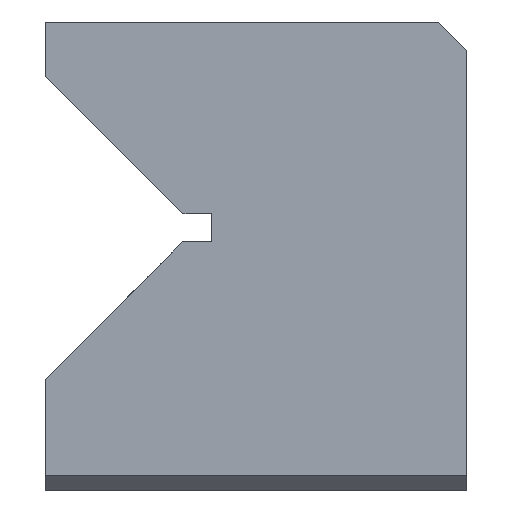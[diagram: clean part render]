
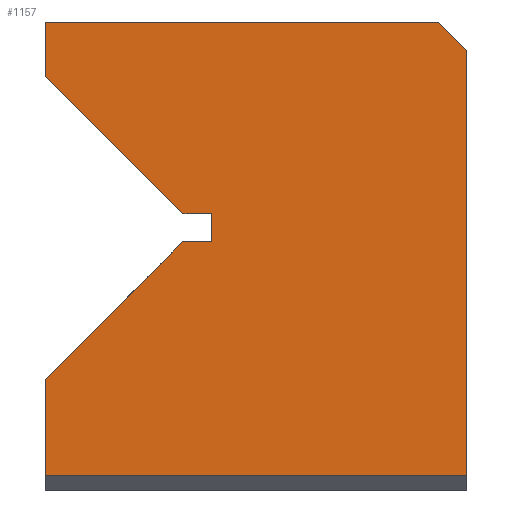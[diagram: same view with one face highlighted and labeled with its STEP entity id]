
A CAD part, left-side view. The second image highlights one B-rep face of the part: STEP entity #1157.
In plain terms, the highlighted planar face has unit normal (-1, 0, 0).
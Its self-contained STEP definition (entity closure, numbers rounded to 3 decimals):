
#186=DIRECTION('',(0.,1.,0.));
#187=VECTOR('',#186,45.);
#188=CARTESIAN_POINT('',(-80.,-22.5,-23.5));
#189=LINE('',#188,#187);
#190=DIRECTION('',(0.,0.,1.));
#191=VECTOR('',#190,10.3);
#192=CARTESIAN_POINT('',(-80.,22.5,-23.5));
#193=LINE('',#192,#191);
#194=DIRECTION('',(0.,-0.707,0.707));
#195=VECTOR('',#194,20.789);
#196=CARTESIAN_POINT('',(-80.,22.5,-13.2));
#197=LINE('',#196,#195);
#198=DIRECTION('',(0.,-1.,0.));
#199=VECTOR('',#198,3.);
#200=CARTESIAN_POINT('',(-80.,7.8,1.5));
#201=LINE('',#200,#199);
#202=DIRECTION('',(0.,0.,1.));
#203=VECTOR('',#202,3.);
#204=CARTESIAN_POINT('',(-80.,4.8,1.5));
#205=LINE('',#204,#203);
#206=DIRECTION('',(0.,1.,0.));
#207=VECTOR('',#206,3.);
#208=CARTESIAN_POINT('',(-80.,4.8,4.5));
#209=LINE('',#208,#207);
#210=DIRECTION('',(0.,0.707,0.707));
#211=VECTOR('',#210,20.789);
#212=CARTESIAN_POINT('',(-80.,7.8,4.5));
#213=LINE('',#212,#211);
#214=DIRECTION('',(0.,0.,1.));
#215=VECTOR('',#214,5.8);
#216=CARTESIAN_POINT('',(-80.,22.5,19.2));
#217=LINE('',#216,#215);
#218=DIRECTION('',(0.,0.707,0.707));
#219=VECTOR('',#218,4.243);
#220=CARTESIAN_POINT('',(-80.,-22.5,22.));
#221=LINE('',#220,#219);
#482=DIRECTION('',(0.,0.,1.));
#483=VECTOR('',#482,45.5);
#484=CARTESIAN_POINT('',(-80.,-22.5,-23.5));
#485=LINE('',#484,#483);
#604=DIRECTION('',(0.,-1.,0.));
#605=VECTOR('',#604,42.);
#606=CARTESIAN_POINT('',(-80.,22.5,25.));
#607=LINE('',#606,#605);
#699=CARTESIAN_POINT('',(-80.,22.5,25.));
#700=VERTEX_POINT('',#699);
#703=CARTESIAN_POINT('',(-80.,22.5,-13.2));
#704=VERTEX_POINT('',#703);
#707=CARTESIAN_POINT('',(-80.,22.5,19.2));
#708=VERTEX_POINT('',#707);
#733=CARTESIAN_POINT('',(-80.,7.8,1.5));
#734=VERTEX_POINT('',#733);
#735=CARTESIAN_POINT('',(-80.,7.8,4.5));
#736=VERTEX_POINT('',#735);
#741=CARTESIAN_POINT('',(-80.,4.8,1.5));
#742=VERTEX_POINT('',#741);
#743=CARTESIAN_POINT('',(-80.,4.8,4.5));
#744=VERTEX_POINT('',#743);
#833=CARTESIAN_POINT('',(-80.,-22.5,22.));
#834=VERTEX_POINT('',#833);
#835=CARTESIAN_POINT('',(-80.,-19.5,25.));
#836=VERTEX_POINT('',#835);
#846=CARTESIAN_POINT('',(-80.,22.5,-23.5));
#848=VERTEX_POINT('',#846);
#849=CARTESIAN_POINT('',(-80.,-22.5,-23.5));
#850=VERTEX_POINT('',#849);
#1133=CARTESIAN_POINT('',(-80.,22.5,-25.));
#1134=DIRECTION('',(-1.,0.,0.));
#1135=DIRECTION('',(0.,-1.,0.));
#1136=AXIS2_PLACEMENT_3D('',#1133,#1134,#1135);
#1137=PLANE('',#1136);
#1138=ORIENTED_EDGE('',*,*,#892,.T.);
#1139=ORIENTED_EDGE('',*,*,#943,.T.);
#1140=ORIENTED_EDGE('',*,*,#1108,.T.);
#1141=ORIENTED_EDGE('',*,*,#1030,.T.);
#1143=ORIENTED_EDGE('',*,*,#1142,.T.);
#1145=ORIENTED_EDGE('',*,*,#1144,.T.);
#1147=ORIENTED_EDGE('',*,*,#1146,.T.);
#1148=ORIENTED_EDGE('',*,*,#909,.T.);
#1150=ORIENTED_EDGE('',*,*,#1149,.T.);
#1152=ORIENTED_EDGE('',*,*,#1151,.F.);
#1154=ORIENTED_EDGE('',*,*,#1153,.F.);
#1155=EDGE_LOOP('',(#1138,#1139,#1140,#1141,#1143,#1145,#1147,#1148,#1150,#1152,
#1154));
#1156=FACE_OUTER_BOUND('',#1155,.F.);
#1157=ADVANCED_FACE('',(#1156),#1137,.T.);
#892=EDGE_CURVE('',#850,#848,#189,.T.);
#909=EDGE_CURVE('',#708,#700,#217,.T.);
#943=EDGE_CURVE('',#848,#704,#193,.T.);
#1030=EDGE_CURVE('',#734,#742,#201,.T.);
#1108=EDGE_CURVE('',#704,#734,#197,.T.);
#1142=EDGE_CURVE('',#742,#744,#205,.T.);
#1144=EDGE_CURVE('',#744,#736,#209,.T.);
#1146=EDGE_CURVE('',#736,#708,#213,.T.);
#1149=EDGE_CURVE('',#700,#836,#607,.T.);
#1151=EDGE_CURVE('',#834,#836,#221,.T.);
#1153=EDGE_CURVE('',#850,#834,#485,.T.);
